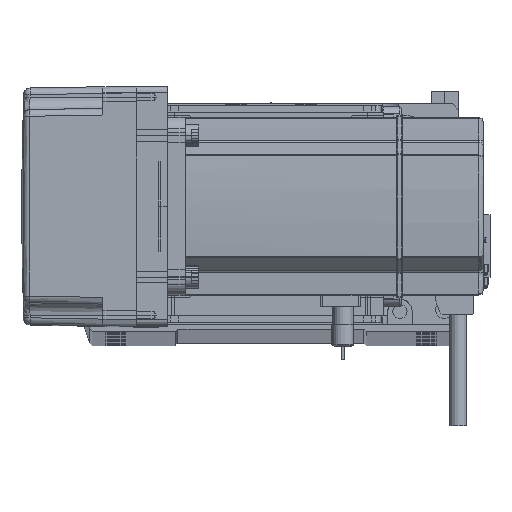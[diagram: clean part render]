
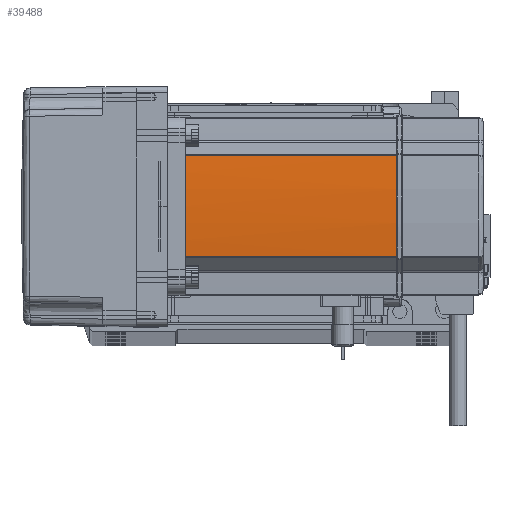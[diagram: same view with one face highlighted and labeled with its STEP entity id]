
A CAD part, top view. The second image highlights one B-rep face of the part: STEP entity #39488.
In plain terms, the highlighted cylindrical face has radius 270 mm (diameter 540 mm), a partial arc.
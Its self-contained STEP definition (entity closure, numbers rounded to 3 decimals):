
#1610 = DIRECTION ( 'NONE',  ( 0., 0., -1. ) ) ;
#1767 = CARTESIAN_POINT ( 'NONE',  ( 40., -0.127, 134. ) ) ;
#2201 = FACE_OUTER_BOUND ( 'NONE', #60979, .T. ) ;
#3227 = CIRCLE ( 'NONE', #43158, 270. ) ;
#4521 = CARTESIAN_POINT ( 'NONE',  ( -230., 0., 58. ) ) ;
#7829 = DIRECTION ( 'NONE',  ( 0., 0., -1. ) ) ;
#8672 = VERTEX_POINT ( 'NONE', #26722 ) ;
#8676 = CARTESIAN_POINT ( 'NONE',  ( 40., 0.127, 134. ) ) ;
#12229 = DIRECTION ( 'NONE',  ( 0., 0., -1. ) ) ;
#18455 = B_SPLINE_CURVE_WITH_KNOTS ( 'NONE', 3,
 ( #1767, #60265, #60514, #8676 ),
 .UNSPECIFIED., .F., .F.,
 ( 4, 4 ),
 ( 0., 1. ),
 .UNSPECIFIED. ) ;
#18727 = CARTESIAN_POINT ( 'NONE',  ( 40., 0.127, 134. ) ) ;
#19141 = LINE ( 'NONE', #48176, #26546 ) ;
#19241 = CIRCLE ( 'NONE', #34029, 270. ) ;
#19537 = CYLINDRICAL_SURFACE ( 'NONE', #67230, 270. ) ;
#21357 = DIRECTION ( 'NONE',  ( -1., 0., 0. ) ) ;
#23067 = EDGE_CURVE ( 'NONE', #8672, #40656, #60230, .T. ) ;
#23492 = DIRECTION ( 'NONE',  ( -1., 0., 0. ) ) ;
#24115 = CARTESIAN_POINT ( 'NONE',  ( 40., -0.127, 134. ) ) ;
#24676 = EDGE_CURVE ( 'NONE', #60393, #8672, #48503, .T. ) ;
#25277 = DIRECTION ( 'NONE',  ( 0., 0., -1. ) ) ;
#25484 = CARTESIAN_POINT ( 'NONE',  ( -230., 0., 134. ) ) ;
#26546 = VECTOR ( 'NONE', #59241, 1000. ) ;
#26722 = CARTESIAN_POINT ( 'NONE',  ( 39.042, -22.724, 134. ) ) ;
#27415 = CARTESIAN_POINT ( 'NONE',  ( 39.042, -22.724, 58. ) ) ;
#34029 = AXIS2_PLACEMENT_3D ( 'NONE', #25484, #25277, #67621 ) ;
#36396 = VERTEX_POINT ( 'NONE', #44379 ) ;
#37567 = ORIENTED_EDGE ( 'NONE', *, *, #24676, .T. ) ;
#37696 = EDGE_CURVE ( 'NONE', #36396, #56424, #19241, .T. ) ;
#38739 = VERTEX_POINT ( 'NONE', #65856 ) ;
#39488 = ADVANCED_FACE ( 'NONE', ( #2201 ), #19537, .T. ) ;
#40656 = VERTEX_POINT ( 'NONE', #58548 ) ;
#41186 = ORIENTED_EDGE ( 'NONE', *, *, #23067, .T. ) ;
#42306 = AXIS2_PLACEMENT_3D ( 'NONE', #49764, #7829, #23492 ) ;
#42911 = CARTESIAN_POINT ( 'NONE',  ( -230., 0., 39. ) ) ;
#43158 = AXIS2_PLACEMENT_3D ( 'NONE', #42911, #12229, #64506 ) ;
#44379 = CARTESIAN_POINT ( 'NONE',  ( 39.042, 22.724, 134. ) ) ;
#44576 = EDGE_CURVE ( 'NONE', #38739, #36396, #19141, .T. ) ;
#48176 = CARTESIAN_POINT ( 'NONE',  ( 39.042, 22.724, 58. ) ) ;
#48503 = CIRCLE ( 'NONE', #42306, 270. ) ;
#49764 = CARTESIAN_POINT ( 'NONE',  ( -230., 0., 134. ) ) ;
#51315 = EDGE_CURVE ( 'NONE', #38739, #40656, #3227, .T. ) ;
#55181 = EDGE_CURVE ( 'NONE', #60393, #56424, #18455, .T. ) ;
#55327 = VECTOR ( 'NONE', #1610, 1000. ) ;
#56424 = VERTEX_POINT ( 'NONE', #18727 ) ;
#57090 = DIRECTION ( 'NONE',  ( 0., 0., -1. ) ) ;
#57539 = ORIENTED_EDGE ( 'NONE', *, *, #51315, .F. ) ;
#58548 = CARTESIAN_POINT ( 'NONE',  ( 39.042, -22.724, 39. ) ) ;
#59241 = DIRECTION ( 'NONE',  ( 0., 0., 1. ) ) ;
#60230 = LINE ( 'NONE', #27415, #55327 ) ;
#60265 = CARTESIAN_POINT ( 'NONE',  ( 40., -0.042, 134. ) ) ;
#60393 = VERTEX_POINT ( 'NONE', #24115 ) ;
#60514 = CARTESIAN_POINT ( 'NONE',  ( 40., 0.042, 134. ) ) ;
#60979 = EDGE_LOOP ( 'NONE', ( #41186, #57539, #63862, #67059, #65105, #37567 ) ) ;
#63862 = ORIENTED_EDGE ( 'NONE', *, *, #44576, .T. ) ;
#64506 = DIRECTION ( 'NONE',  ( -1., 0., 0. ) ) ;
#65105 = ORIENTED_EDGE ( 'NONE', *, *, #55181, .F. ) ;
#65856 = CARTESIAN_POINT ( 'NONE',  ( 39.042, 22.724, 39. ) ) ;
#67059 = ORIENTED_EDGE ( 'NONE', *, *, #37696, .T. ) ;
#67230 = AXIS2_PLACEMENT_3D ( 'NONE', #4521, #57090, #21357 ) ;
#67621 = DIRECTION ( 'NONE',  ( -1., 0., 0. ) ) ;
